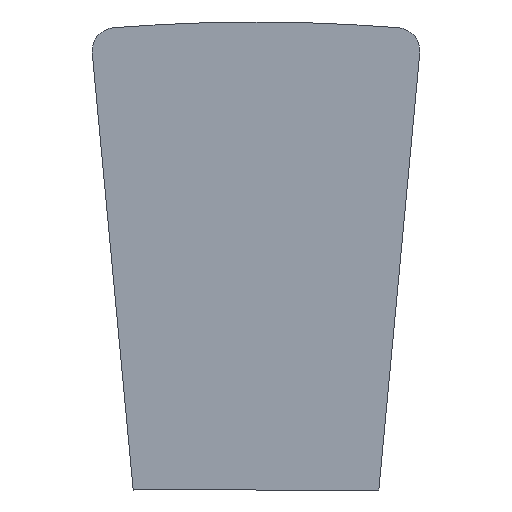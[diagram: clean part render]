
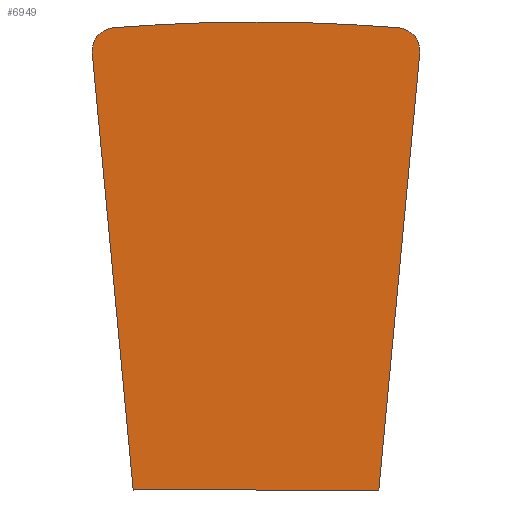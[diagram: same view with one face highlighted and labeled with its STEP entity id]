
A CAD part, left-side view. The second image highlights one B-rep face of the part: STEP entity #6949.
In plain terms, the highlighted planar face has unit normal (-1, 0, 0).
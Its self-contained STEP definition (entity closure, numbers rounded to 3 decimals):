
#52 = CARTESIAN_POINT ( 'NONE',  ( -84., 6.998, 18.666 ) ) ;
#68 = CIRCLE ( 'NONE', #4091, 1. ) ;
#89 = ORIENTED_EDGE ( 'NONE', *, *, #2439, .F. ) ;
#227 = VERTEX_POINT ( 'NONE', #2640 ) ;
#259 = CARTESIAN_POINT ( 'NONE',  ( -84., 0., -56.069 ) ) ;
#282 = AXIS2_PLACEMENT_3D ( 'NONE', #3030, #2396, #1346 ) ;
#573 = DIRECTION ( 'NONE',  ( 0., 0., -1. ) ) ;
#931 = CARTESIAN_POINT ( 'NONE',  ( -84., -5.25, 0. ) ) ;
#1097 = DIRECTION ( 'NONE',  ( 1., 0., 0. ) ) ;
#1149 = VERTEX_POINT ( 'NONE', #1387 ) ;
#1346 = DIRECTION ( 'NONE',  ( 0., 0., -1. ) ) ;
#1352 = EDGE_CURVE ( 'NONE', #4820, #1149, #68, .T. ) ;
#1387 = CARTESIAN_POINT ( 'NONE',  ( -84., 6.082, 19.756 ) ) ;
#1419 = DIRECTION ( 'NONE',  ( 1., 0., 0. ) ) ;
#1615 = AXIS2_PLACEMENT_3D ( 'NONE', #259, #6798, #2932 ) ;
#1679 = VERTEX_POINT ( 'NONE', #931 ) ;
#1767 = VERTEX_POINT ( 'NONE', #5291 ) ;
#1785 = VECTOR ( 'NONE', #4152, 1000. ) ;
#1822 = EDGE_CURVE ( 'NONE', #1149, #227, #5073, .T. ) ;
#1892 = VERTEX_POINT ( 'NONE', #2092 ) ;
#2092 = CARTESIAN_POINT ( 'NONE',  ( -84., -6.998, 18.666 ) ) ;
#2112 = CARTESIAN_POINT ( 'NONE',  ( -84., 5.25, 0. ) ) ;
#2113 = AXIS2_PLACEMENT_3D ( 'NONE', #6239, #1419, #5256 ) ;
#2355 = EDGE_CURVE ( 'NONE', #227, #4536, #4083, .T. ) ;
#2396 = DIRECTION ( 'NONE',  ( 1., 0., 0. ) ) ;
#2434 = DIRECTION ( 'NONE',  ( 1., 0., 0. ) ) ;
#2439 = EDGE_CURVE ( 'NONE', #1892, #1679, #5761, .T. ) ;
#2469 = PLANE ( 'NONE',  #2113 ) ;
#2604 = LINE ( 'NONE', #2112, #6196 ) ;
#2640 = CARTESIAN_POINT ( 'NONE',  ( -84., 0., 20. ) ) ;
#2842 = EDGE_CURVE ( 'NONE', #1767, #4820, #3526, .T. ) ;
#2932 = DIRECTION ( 'NONE',  ( 0., 0., -1. ) ) ;
#2970 = DIRECTION ( 'NONE',  ( 0., 0., -1. ) ) ;
#3030 = CARTESIAN_POINT ( 'NONE',  ( -84., 0., -56.069 ) ) ;
#3194 = EDGE_LOOP ( 'NONE', ( #4127, #6672, #89, #6606, #6357, #5799, #6742 ) ) ;
#3526 = LINE ( 'NONE', #5610, #3738 ) ;
#3574 = CARTESIAN_POINT ( 'NONE',  ( -84., -6.002, 18.76 ) ) ;
#3738 = VECTOR ( 'NONE', #4578, 1000. ) ;
#4083 = CIRCLE ( 'NONE', #282, 76.069 ) ;
#4085 = FACE_OUTER_BOUND ( 'NONE', #3194, .T. ) ;
#4091 = AXIS2_PLACEMENT_3D ( 'NONE', #7065, #1097, #573 ) ;
#4127 = ORIENTED_EDGE ( 'NONE', *, *, #2842, .F. ) ;
#4152 = DIRECTION ( 'NONE',  ( 0., 0.093, -0.996 ) ) ;
#4521 = CARTESIAN_POINT ( 'NONE',  ( -84., -6.998, 18.666 ) ) ;
#4536 = VERTEX_POINT ( 'NONE', #5840 ) ;
#4578 = DIRECTION ( 'NONE',  ( 0., 0.093, 0.996 ) ) ;
#4820 = VERTEX_POINT ( 'NONE', #52 ) ;
#5073 = CIRCLE ( 'NONE', #1615, 76.069 ) ;
#5256 = DIRECTION ( 'NONE',  ( 0., 0., -1. ) ) ;
#5291 = CARTESIAN_POINT ( 'NONE',  ( -84., 5.25, 0. ) ) ;
#5408 = DIRECTION ( 'NONE',  ( 0., 1., 0. ) ) ;
#5542 = AXIS2_PLACEMENT_3D ( 'NONE', #3574, #2434, #2970 ) ;
#5610 = CARTESIAN_POINT ( 'NONE',  ( -84., 5.25, 0. ) ) ;
#5692 = EDGE_CURVE ( 'NONE', #1679, #1767, #2604, .T. ) ;
#5761 = LINE ( 'NONE', #4521, #1785 ) ;
#5799 = ORIENTED_EDGE ( 'NONE', *, *, #1822, .F. ) ;
#5840 = CARTESIAN_POINT ( 'NONE',  ( -84., -6.082, 19.756 ) ) ;
#6008 = CIRCLE ( 'NONE', #5542, 1. ) ;
#6196 = VECTOR ( 'NONE', #5408, 1000. ) ;
#6239 = CARTESIAN_POINT ( 'NONE',  ( -84., 6.002, 18.76 ) ) ;
#6357 = ORIENTED_EDGE ( 'NONE', *, *, #2355, .F. ) ;
#6606 = ORIENTED_EDGE ( 'NONE', *, *, #6865, .F. ) ;
#6672 = ORIENTED_EDGE ( 'NONE', *, *, #5692, .F. ) ;
#6742 = ORIENTED_EDGE ( 'NONE', *, *, #1352, .F. ) ;
#6798 = DIRECTION ( 'NONE',  ( 1., 0., 0. ) ) ;
#6865 = EDGE_CURVE ( 'NONE', #4536, #1892, #6008, .T. ) ;
#6949 = ADVANCED_FACE ( 'NONE', ( #4085 ), #2469, .F. ) ;
#7065 = CARTESIAN_POINT ( 'NONE',  ( -84., 6.002, 18.76 ) ) ;
